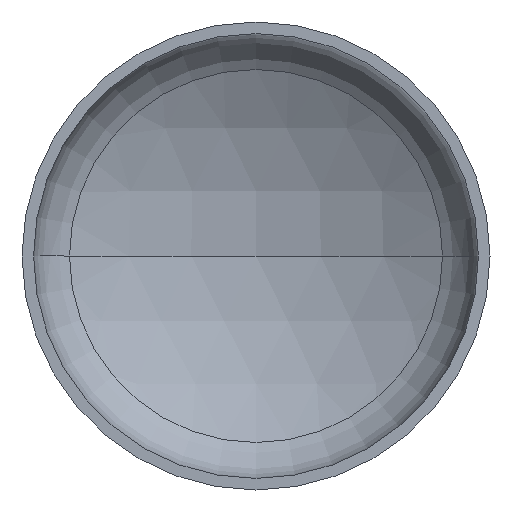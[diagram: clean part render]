
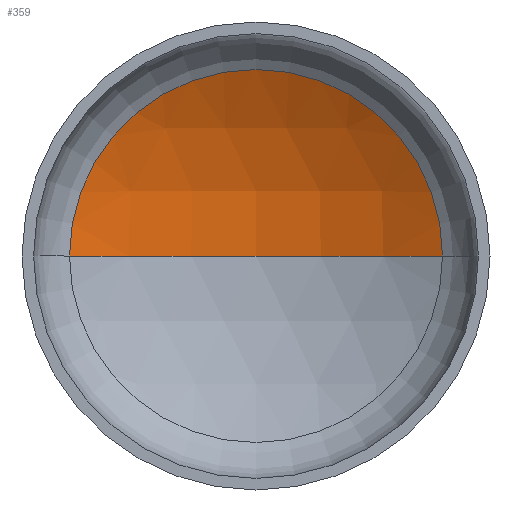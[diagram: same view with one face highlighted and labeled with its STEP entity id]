
A CAD part, front view. The second image highlights one B-rep face of the part: STEP entity #359.
In plain terms, the highlighted spherical face has radius 1360 mm.
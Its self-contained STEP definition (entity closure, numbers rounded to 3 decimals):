
#7 = EDGE_LOOP ( 'NONE', ( #25, #132, #114 ) ) ;
#8 = DIRECTION ( 'NONE',  ( 0., -1., 0. ) ) ;
#9 = AXIS2_PLACEMENT_3D ( 'NONE', #198, #336, #94 ) ;
#13 = AXIS2_PLACEMENT_3D ( 'NONE', #313, #362, #142 ) ;
#25 = ORIENTED_EDGE ( 'NONE', *, *, #354, .F. ) ;
#27 = CARTESIAN_POINT ( 'NONE',  ( 0., -823.78, 0. ) ) ;
#29 = VERTEX_POINT ( 'NONE', #372 ) ;
#47 = AXIS2_PLACEMENT_3D ( 'NONE', #27, #246, #199 ) ;
#48 = AXIS2_PLACEMENT_3D ( 'NONE', #250, #8, #163 ) ;
#87 = VERTEX_POINT ( 'NONE', #191 ) ;
#94 = DIRECTION ( 'NONE',  ( -1., 0., 0. ) ) ;
#114 = ORIENTED_EDGE ( 'NONE', *, *, #136, .T. ) ;
#132 = ORIENTED_EDGE ( 'NONE', *, *, #145, .T. ) ;
#136 = EDGE_CURVE ( 'NONE', #29, #87, #201, .T. ) ;
#140 = VERTEX_POINT ( 'NONE', #196 ) ;
#142 = DIRECTION ( 'NONE',  ( 1., 0., 0. ) ) ;
#145 = EDGE_CURVE ( 'NONE', #140, #29, #322, .T. ) ;
#163 = DIRECTION ( 'NONE',  ( 1., 0., 0. ) ) ;
#170 = CIRCLE ( 'NONE', #13, 1360. ) ;
#191 = CARTESIAN_POINT ( 'NONE',  ( -677.527, 355.439, 0. ) ) ;
#196 = CARTESIAN_POINT ( 'NONE',  ( 0., 536.22, 0. ) ) ;
#198 = CARTESIAN_POINT ( 'NONE',  ( 0., -823.78, 0. ) ) ;
#199 = DIRECTION ( 'NONE',  ( -1., 0., 0. ) ) ;
#201 = CIRCLE ( 'NONE', #48, 677.527 ) ;
#246 = DIRECTION ( 'NONE',  ( 0., 0., -1. ) ) ;
#250 = CARTESIAN_POINT ( 'NONE',  ( 0., 355.439, 0. ) ) ;
#313 = CARTESIAN_POINT ( 'NONE',  ( 0., -823.78, 0. ) ) ;
#322 = CIRCLE ( 'NONE', #47, 1360. ) ;
#336 = DIRECTION ( 'NONE',  ( 0., 0., -1. ) ) ;
#344 = SPHERICAL_SURFACE ( 'NONE', #9, 1360. ) ;
#354 = EDGE_CURVE ( 'NONE', #140, #87, #170, .T. ) ;
#359 = ADVANCED_FACE ( 'NONE', ( #404 ), #344, .F. ) ;
#362 = DIRECTION ( 'NONE',  ( 0., 0., 1. ) ) ;
#372 = CARTESIAN_POINT ( 'NONE',  ( 677.527, 355.439, 0. ) ) ;
#404 = FACE_OUTER_BOUND ( 'NONE', #7, .T. ) ;
